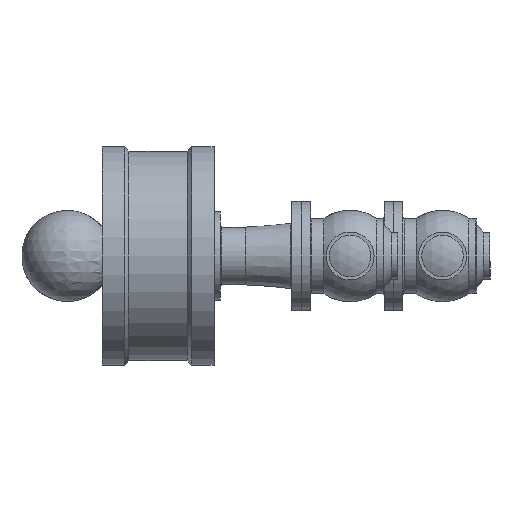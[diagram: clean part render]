
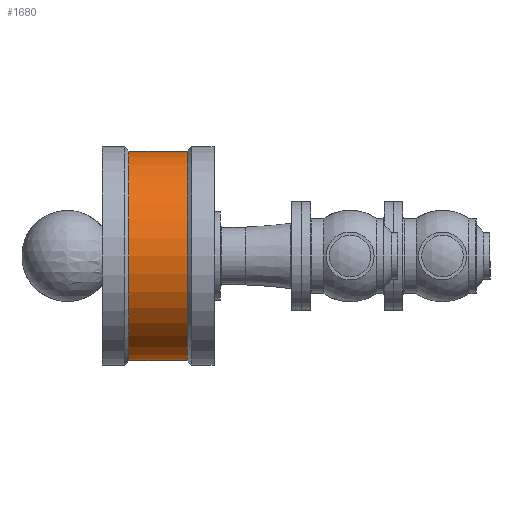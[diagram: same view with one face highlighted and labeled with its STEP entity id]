
A CAD part, left-side view. The second image highlights one B-rep face of the part: STEP entity #1680.
In plain terms, the highlighted cylindrical face has radius 167 mm (diameter 334 mm), a full revolution.
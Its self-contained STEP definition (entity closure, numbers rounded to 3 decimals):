
#253=FACE_OUTER_BOUND('',#354,.T.);
#354=EDGE_LOOP('',(#1238,#1239,#1240,#1241,#1242,#1243));
#462=LINE('',#3045,#505);
#505=VECTOR('',#2372,167.);
#576=CIRCLE('',#1970,167.);
#577=CIRCLE('',#1971,167.);
#578=CIRCLE('',#1973,167.);
#579=CIRCLE('',#1974,167.);
#768=VERTEX_POINT('',#3035);
#769=VERTEX_POINT('',#3036);
#770=VERTEX_POINT('',#3041);
#771=VERTEX_POINT('',#3042);
#956=EDGE_CURVE('',#768,#769,#576,.T.);
#957=EDGE_CURVE('',#769,#768,#577,.T.);
#959=EDGE_CURVE('',#770,#771,#578,.T.);
#960=EDGE_CURVE('',#771,#770,#579,.T.);
#961=EDGE_CURVE('',#771,#769,#462,.T.);
#1238=ORIENTED_EDGE('',*,*,#959,.F.);
#1239=ORIENTED_EDGE('',*,*,#960,.F.);
#1240=ORIENTED_EDGE('',*,*,#961,.T.);
#1241=ORIENTED_EDGE('',*,*,#957,.T.);
#1242=ORIENTED_EDGE('',*,*,#956,.T.);
#1243=ORIENTED_EDGE('',*,*,#961,.F.);
#1630=CYLINDRICAL_SURFACE('',#1972,167.);
#1680=ADVANCED_FACE('',(#253),#1630,.T.);
#1970=AXIS2_PLACEMENT_3D('',#3037,#2361,#2362);
#1971=AXIS2_PLACEMENT_3D('',#3038,#2363,#2364);
#1972=AXIS2_PLACEMENT_3D('',#3040,#2366,#2367);
#1973=AXIS2_PLACEMENT_3D('',#3043,#2368,#2369);
#1974=AXIS2_PLACEMENT_3D('',#3044,#2370,#2371);
#2361=DIRECTION('center_axis',(-1.,0.,0.));
#2362=DIRECTION('ref_axis',(0.,0.,1.));
#2363=DIRECTION('center_axis',(-1.,0.,0.));
#2364=DIRECTION('ref_axis',(0.,0.,1.));
#2366=DIRECTION('center_axis',(-1.,0.,0.));
#2367=DIRECTION('ref_axis',(0.,0.,1.));
#2368=DIRECTION('center_axis',(-1.,0.,0.));
#2369=DIRECTION('ref_axis',(0.,0.,1.));
#2370=DIRECTION('center_axis',(-1.,0.,0.));
#2371=DIRECTION('ref_axis',(0.,0.,1.));
#2372=DIRECTION('',(1.,0.,0.));
#3035=CARTESIAN_POINT('',(-45.5,0.,167.));
#3036=CARTESIAN_POINT('',(-45.5,0.,-167.));
#3037=CARTESIAN_POINT('Origin',(-45.5,0.,0.));
#3038=CARTESIAN_POINT('Origin',(-45.5,0.,0.));
#3040=CARTESIAN_POINT('Origin',(-92.,0.,0.));
#3041=CARTESIAN_POINT('',(-138.5,0.,167.));
#3042=CARTESIAN_POINT('',(-138.5,0.,-167.));
#3043=CARTESIAN_POINT('Origin',(-138.5,0.,0.));
#3044=CARTESIAN_POINT('Origin',(-138.5,0.,0.));
#3045=CARTESIAN_POINT('',(-92.,0.,-167.));
